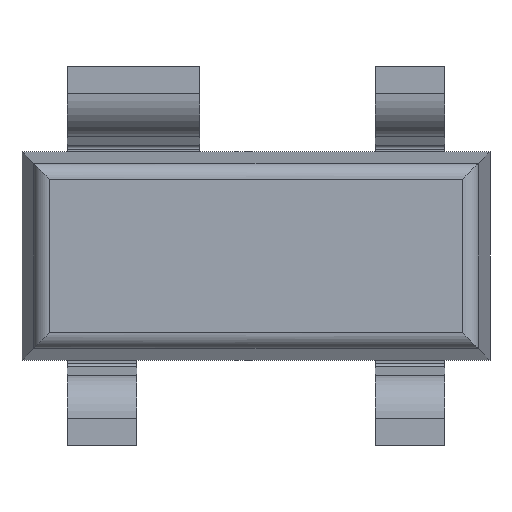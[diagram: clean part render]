
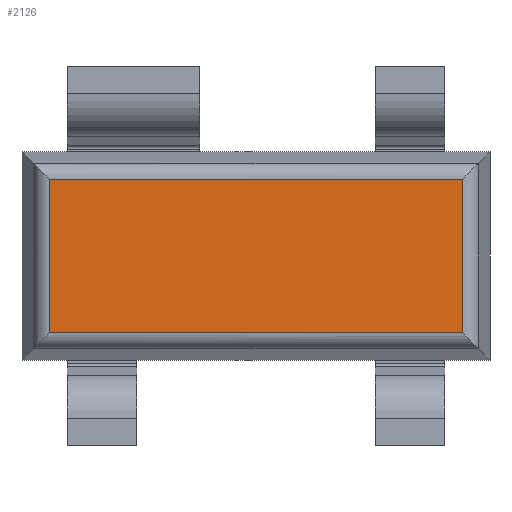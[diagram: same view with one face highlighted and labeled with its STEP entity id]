
A CAD part, front view. The second image highlights one B-rep face of the part: STEP entity #2126.
In plain terms, the highlighted planar face has unit normal (0, -1, 0).
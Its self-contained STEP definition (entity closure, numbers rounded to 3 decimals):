
#2087 = CARTESIAN_POINT ( 'NONE',  ( 1.288, 0.01, -0.478 ) ) ;
#2088 = VERTEX_POINT ( 'NONE', #2087 ) ;
#2089 = CARTESIAN_POINT ( 'NONE',  ( 1.288, 0.01, 0.478 ) ) ;
#2090 = VERTEX_POINT ( 'NONE', #2089 ) ;
#2091 = CARTESIAN_POINT ( 'NONE',  ( 1.288, 0.01, 0. ) ) ;
#2092 = DIRECTION ( 'NONE',  ( 0., 0., 1. ) ) ;
#2093 = VECTOR ( 'NONE', #2092, 1000. ) ;
#2094 = LINE ( 'NONE', #2091, #2093 ) ;
#2095 = EDGE_CURVE ( 'NONE', #2088, #2090, #2094, .T. ) ;
#2096 = ORIENTED_EDGE ( 'NONE', *, *, #2095, .T. ) ;
#2097 = CARTESIAN_POINT ( 'NONE',  ( -1.288, 0.01, 0.478 ) ) ;
#2098 = VERTEX_POINT ( 'NONE', #2097 ) ;
#2099 = CARTESIAN_POINT ( 'NONE',  ( 0., 0.01, 0.478 ) ) ;
#2100 = DIRECTION ( 'NONE',  ( -1., 0., 0. ) ) ;
#2101 = VECTOR ( 'NONE', #2100, 1000. ) ;
#2102 = LINE ( 'NONE', #2099, #2101 ) ;
#2103 = EDGE_CURVE ( 'NONE', #2090, #2098, #2102, .T. ) ;
#2104 = ORIENTED_EDGE ( 'NONE', *, *, #2103, .T. ) ;
#2105 = CARTESIAN_POINT ( 'NONE',  ( -1.288, 0.01, -0.478 ) ) ;
#2106 = VERTEX_POINT ( 'NONE', #2105 ) ;
#2107 = CARTESIAN_POINT ( 'NONE',  ( -1.288, 0.01, 0. ) ) ;
#2108 = DIRECTION ( 'NONE',  ( 0., 0., -1. ) ) ;
#2109 = VECTOR ( 'NONE', #2108, 1000. ) ;
#2110 = LINE ( 'NONE', #2107, #2109 ) ;
#2111 = EDGE_CURVE ( 'NONE', #2098, #2106, #2110, .T. ) ;
#2112 = ORIENTED_EDGE ( 'NONE', *, *, #2111, .T. ) ;
#2113 = CARTESIAN_POINT ( 'NONE',  ( 0., 0.01, -0.478 ) ) ;
#2114 = DIRECTION ( 'NONE',  ( 1., 0., 0. ) ) ;
#2115 = VECTOR ( 'NONE', #2114, 1000. ) ;
#2116 = LINE ( 'NONE', #2113, #2115 ) ;
#2117 = EDGE_CURVE ( 'NONE', #2106, #2088, #2116, .T. ) ;
#2118 = ORIENTED_EDGE ( 'NONE', *, *, #2117, .T. ) ;
#2119 = EDGE_LOOP ( 'NONE', ( #2096, #2104, #2112, #2118 ) ) ;
#2120 = FACE_OUTER_BOUND ( 'NONE', #2119, .T. ) ;
#2121 = CARTESIAN_POINT ( 'NONE',  ( 0., 0.01, 0. ) ) ;
#2122 = DIRECTION ( 'NONE',  ( 0., -1., 0. ) ) ;
#2123 = DIRECTION ( 'NONE',  ( 0., 0., -1. ) ) ;
#2124 = AXIS2_PLACEMENT_3D ( 'NONE', #2121, #2122, #2123 ) ;
#2125 = PLANE ( 'NONE', #2124 ) ;
#2126 = ADVANCED_FACE ( 'NONE', ( #2120 ), #2125, .T. ) ;
